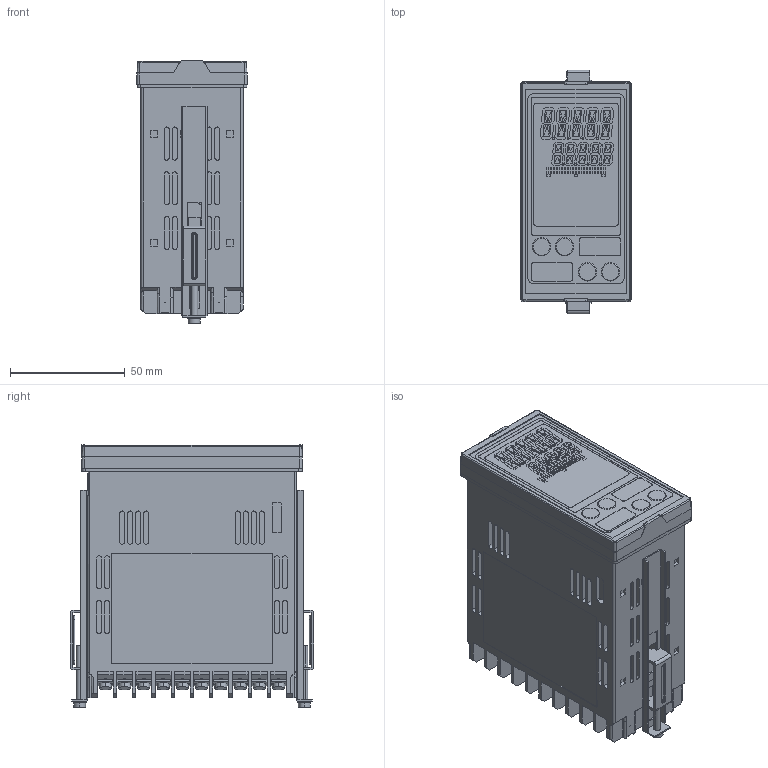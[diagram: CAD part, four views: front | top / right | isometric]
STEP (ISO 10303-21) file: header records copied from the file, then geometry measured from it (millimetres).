
FILE_DESCRIPTION (( 'STEP AP214' ), '1' );
FILE_NAME ('AS_AER_200502.STEP', '2020-04-30T01:54:19', ( '' ), ( '' ), 'SwSTEP 2.0', 'SolidWorks 2018', '' );
FILE_SCHEMA (( 'AUTOMOTIVE_DESIGN' ));
Length unit declared in the file: millimetre
Products named in the file (4): AER_200502; AS_AER_200502; 取付金具_JIR_170123; 僈僗働僢僩A_JIR_170124
Assembly tree (4 placements, depth 2):
  AS_AER_200502
    AER_200502
    僈僗働僢僩A_JIR_170124
    取付金具_JIR_170123  x2
Bounding box: 48 x 106.2 x 114.4 mm (x, y, z)
Volume: 419207.8 mm3; surface area: 61602.4 mm2
Topology: 4 solids, 4 shells, 2202 faces, 5626 edges, 3734 vertices
Faces by surface type: plane 1786, cylinder 376, torus 24, cone 8, bspline 8
Entity records: 64112 total; most frequent: CARTESIAN_POINT 11336, ORIENTED_EDGE 10732, DIRECTION 10209, EDGE_CURVE 5366, LINE 4609, VECTOR 4609, VERTEX_POINT 3567, AXIS2_PLACEMENT_3D 2800
